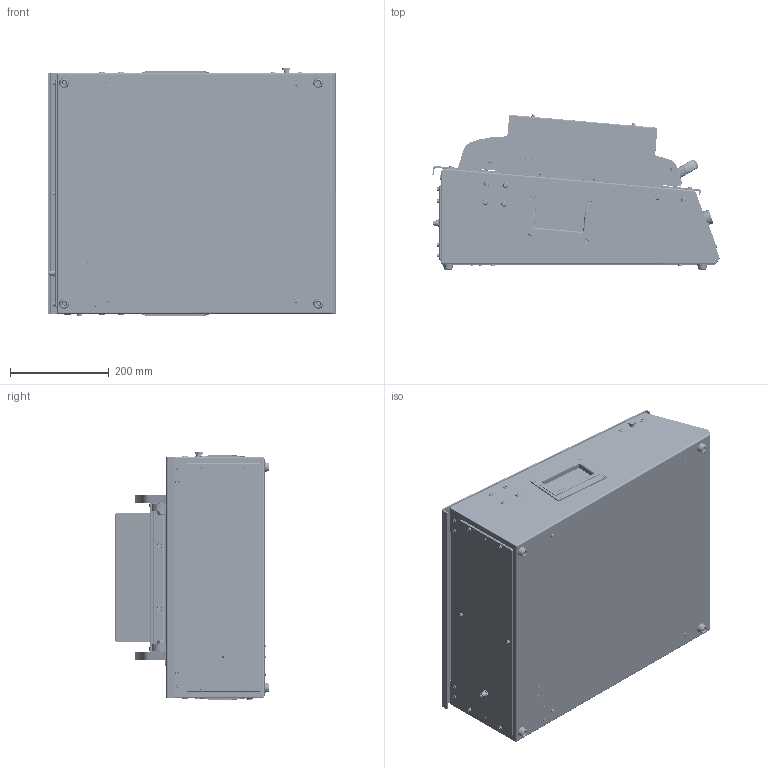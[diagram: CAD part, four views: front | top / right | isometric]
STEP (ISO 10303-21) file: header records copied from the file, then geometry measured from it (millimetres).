
FILE_DESCRIPTION (( 'STEP AP214' ), '1' );
FILE_NAME ('ARF-UPe-P-SHA2 - fermé.STEP', '2026-09-29T09:11:33', ( '' ), ( '' ), 'SwSTEP 2.0', 'SolidWorks 2015', '' );
FILE_SCHEMA (( 'AUTOMOTIVE_DESIGN' ));
Length unit declared in the file: millimetre
Products named in the file (173): ehff_4x20; gd5x20; BNS33-Schmresal; shs 04x20; 8122_109-STEP; M03 Hu; F Torx 04x12; 202102; 8122_149; M05 Hu; C85N25-60_Sans Ecrou; mr9mn; 8122_104; ehmf_4x40; eac_m5; chc_06x16; 8122_162; F Torx 05x25; Rd Cuv pleine M4; CompagazL150; 8122_144; 8122_015; 8122_002; 8122_139; 8122_112_version C; 8122_006 - STEP; 8122_011; 8122_125; sejhfs25d12; 56-725-001; 8122_147; 8122_007_Version C; F Torx 03x06; cft_m4_10_i; TCBL TORX M4X10; chc_03x05; M04 Hu; 8122_161; RZ_3; M05 Ef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
Assembly tree (561 placements, depth 5):
  ARF-UPe-P-SHA2 - fermé
    8122_023 - STEP
      8122_100 - STEP
        8122_100 - STEP
        8122_101  x4
        8122_102
        8122_103  x2
        cft_m4_10_i  x18
        eac_m4  x4
        8122_104
      j01027a0008  x2
      chc_03x06  x8
      RM_4  x18
      M04 Hu  x18
      5286_131  x2
      F Torx 04x10  x4
      202102
    8122_024 - STEP
      8122_109 - STEP
        8122_109-STEP
        8122_105 - STEP  x2
        8122_106 - STEP  x2
        cft_m4_15_i_tst  x4
      mousse_rf_198x54  x2
      mousse_rf_300x258
      mousse_rf_300x54  x2
      8122_116  x4
      chc_04x06  x4
      RM_4  x4
      ehff_4x45  x4
      RZ_4  x4
      chc_04x16  x8
      M04 Hu  x4
      chc_04x12  x3
    8122_002
      8122_125
        8122_125
        eac_m4  x24
        eac_m5  x4
      8122_007_Version C
        8122_112_version C
        8122_113_version C
        Tête moltée M5
        ASR_T030180172L
        M05 Hu
        F Torx 04x14  x2
        chc_05x40
        Rd Cuv pleine M4  x2
        el_d5x5
        gd5x20
        gd4x20
      8122_162  x2
      8131_110 (PlaqueID)
      8122_161  x2
      poignée pliable  x2
      048_2000_114_07  x4
      54-1-3029_01  x2
      CIR_EXT_D5.6  x2
      chc_02,5x20  x2
      M02.5 h  x2
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Bounding box: 582.48 x 314.19 x 503 mm (x, y, z)
Volume: 11773993.7 mm3; surface area: 5026163.7 mm2
Topology: 544 solids, 698 shells, 16535 faces, 40794 edges, 26298 vertices
Faces by surface type: cylinder 7304, plane 6010, cone 2178, torus 660, bspline 313, sphere 70
Entity records: 271630 total; most frequent: CARTESIAN_POINT 64088, DIRECTION 40064, ORIENTED_EDGE 36895, EDGE_CURVE 18684, AXIS2_PLACEMENT_3D 14947, VERTEX_POINT 12225, LINE 10170, VECTOR 10170
